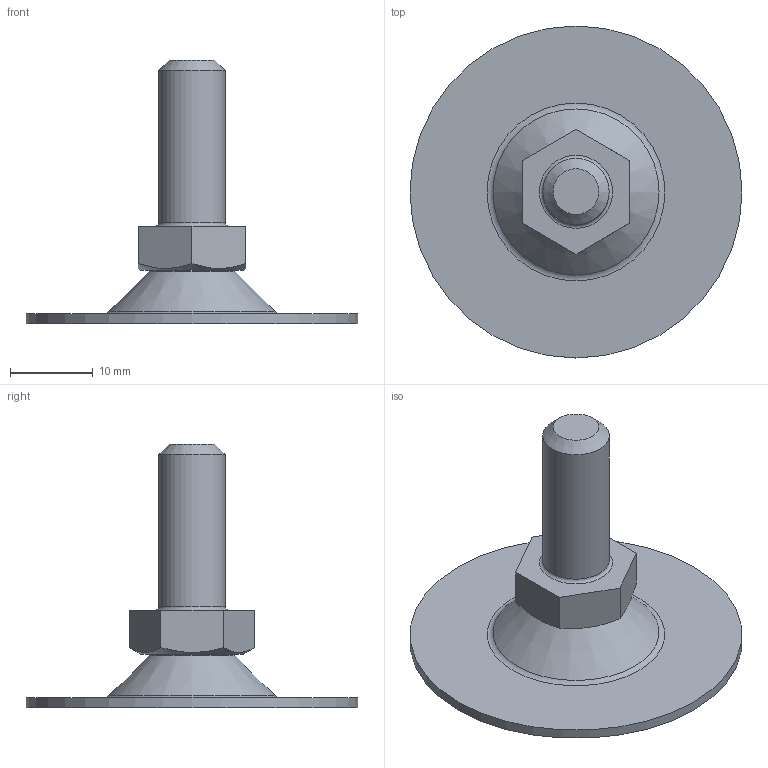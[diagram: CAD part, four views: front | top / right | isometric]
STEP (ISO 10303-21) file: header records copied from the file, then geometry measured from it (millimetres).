
FILE_DESCRIPTION(('STEP AP203'), '1');
FILE_NAME('A00050.1040816', '', ('UNSPECIFIED'), ('UNSPECIFIED'), 'C3D Converter', 'C3D Toolkit', '');
FILE_SCHEMA(('CONFIG_CONTROL_DESIGN'));
Length unit declared in the file: millimetre
Products named in the file (4): A00050.1040820; A00050.1040
Assembly tree (3 placements, depth 2):
  A00050.1040820
    A00050.1040
    (unnamed)
    (unnamed)
Bounding box: 40 x 40 x 31.78 mm (x, y, z)
Volume: 3422.5 mm3; surface area: 4278.7 mm2
Topology: 3 solids, 3 shells, 58 faces, 130 edges, 82 vertices
Faces by surface type: plane 28, torus 8, bspline 8, cone 7, cylinder 6, sphere 1
Full cylindrical faces by diameter (mm): 3.3 x1, 4 x1, 4.5 x1, 8 x2, 40 x1
Entity records: 2171 total; most frequent: CARTESIAN_POINT 784, DIRECTION 242, ORIENTED_EDGE 214, EDGE_CURVE 107, AXIS2_PLACEMENT_3D 95, EDGE_LOOP 86, VERTEX_POINT 81, ADVANCED_FACE 58
